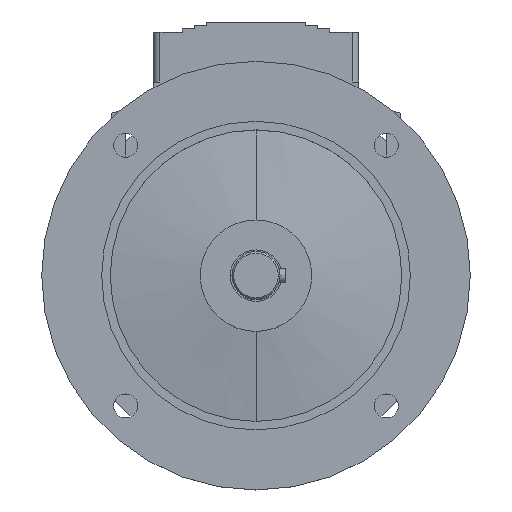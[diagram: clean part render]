
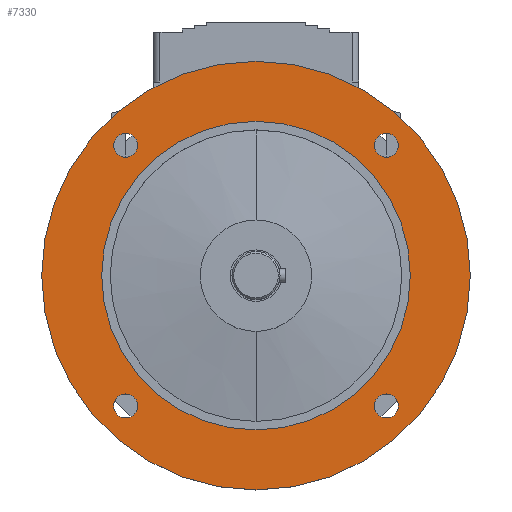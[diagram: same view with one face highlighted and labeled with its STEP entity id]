
A CAD part, top view. The second image highlights one B-rep face of the part: STEP entity #7330.
In plain terms, the highlighted planar face has unit normal (0, 0, 1).
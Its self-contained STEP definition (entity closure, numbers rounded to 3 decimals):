
#2224=CARTESIAN_POINT('',(-76.014,76.014,38.));
#2225=DIRECTION('',(0.,0.,-1.));
#2226=DIRECTION('',(-1.,0.,0.));
#2227=AXIS2_PLACEMENT_3D('',#2224,#2225,#2226);
#2229=CARTESIAN_POINT('',(-76.014,76.014,38.));
#2230=DIRECTION('',(0.,0.,-1.));
#2231=DIRECTION('',(1.,0.,0.));
#2232=AXIS2_PLACEMENT_3D('',#2229,#2230,#2231);
#2234=CARTESIAN_POINT('',(-76.014,-76.014,38.));
#2235=DIRECTION('',(0.,0.,-1.));
#2236=DIRECTION('',(-1.,0.,0.));
#2237=AXIS2_PLACEMENT_3D('',#2234,#2235,#2236);
#2239=CARTESIAN_POINT('',(-76.014,-76.014,38.));
#2240=DIRECTION('',(0.,0.,-1.));
#2241=DIRECTION('',(1.,0.,0.));
#2242=AXIS2_PLACEMENT_3D('',#2239,#2240,#2241);
#2244=CARTESIAN_POINT('',(76.014,-76.014,38.));
#2245=DIRECTION('',(0.,0.,-1.));
#2246=DIRECTION('',(-1.,0.,0.));
#2247=AXIS2_PLACEMENT_3D('',#2244,#2245,#2246);
#2249=CARTESIAN_POINT('',(76.014,-76.014,38.));
#2250=DIRECTION('',(0.,0.,-1.));
#2251=DIRECTION('',(1.,0.,0.));
#2252=AXIS2_PLACEMENT_3D('',#2249,#2250,#2251);
#2254=CARTESIAN_POINT('',(0.,0.,38.));
#2255=DIRECTION('',(0.,0.,1.));
#2256=DIRECTION('',(0.,1.,0.));
#2257=AXIS2_PLACEMENT_3D('',#2254,#2255,#2256);
#2259=CARTESIAN_POINT('',(0.,0.,38.));
#2260=DIRECTION('',(0.,0.,-1.));
#2261=DIRECTION('',(0.,1.,0.));
#2262=AXIS2_PLACEMENT_3D('',#2259,#2260,#2261);
#2264=CARTESIAN_POINT('',(76.014,76.014,38.));
#2265=DIRECTION('',(0.,0.,-1.));
#2266=DIRECTION('',(-1.,0.,0.));
#2267=AXIS2_PLACEMENT_3D('',#2264,#2265,#2266);
#2269=CARTESIAN_POINT('',(76.014,76.014,38.));
#2270=DIRECTION('',(0.,0.,-1.));
#2271=DIRECTION('',(1.,0.,0.));
#2272=AXIS2_PLACEMENT_3D('',#2269,#2270,#2271);
#2294=CARTESIAN_POINT('',(0.,0.,38.));
#2295=DIRECTION('',(0.,0.,-1.));
#2296=DIRECTION('',(0.,1.,0.));
#2297=AXIS2_PLACEMENT_3D('',#2294,#2295,#2296);
#2307=CARTESIAN_POINT('',(0.,0.,38.));
#2308=DIRECTION('',(0.,0.,1.));
#2309=DIRECTION('',(0.,1.,0.));
#2310=AXIS2_PLACEMENT_3D('',#2307,#2308,#2309);
#3365=CARTESIAN_POINT('',(0.,125.,38.));
#3367=VERTEX_POINT('',#3365);
#3368=CARTESIAN_POINT('',(0.,90.,38.));
#3370=VERTEX_POINT('',#3368);
#3373=CARTESIAN_POINT('',(0.,-125.,38.));
#3375=VERTEX_POINT('',#3373);
#3376=CARTESIAN_POINT('',(0.,-90.,38.));
#3378=VERTEX_POINT('',#3376);
#3384=CARTESIAN_POINT('',(69.014,76.014,38.));
#3385=CARTESIAN_POINT('',(83.014,76.014,38.));
#3386=VERTEX_POINT('',#3384);
#3387=VERTEX_POINT('',#3385);
#3392=CARTESIAN_POINT('',(69.014,-76.014,38.));
#3393=CARTESIAN_POINT('',(83.014,-76.014,38.));
#3394=VERTEX_POINT('',#3392);
#3395=VERTEX_POINT('',#3393);
#3400=CARTESIAN_POINT('',(-83.014,-76.014,38.));
#3401=CARTESIAN_POINT('',(-69.014,-76.014,38.));
#3402=VERTEX_POINT('',#3400);
#3403=VERTEX_POINT('',#3401);
#3408=CARTESIAN_POINT('',(-83.014,76.014,38.));
#3409=CARTESIAN_POINT('',(-69.014,76.014,38.));
#3410=VERTEX_POINT('',#3408);
#3411=VERTEX_POINT('',#3409);
#7290=CARTESIAN_POINT('',(0.,0.,38.));
#7291=DIRECTION('',(0.,0.,-1.));
#7292=DIRECTION('',(0.,-1.,0.));
#7293=AXIS2_PLACEMENT_3D('',#7290,#7291,#7292);
#7294=PLANE('',#7293);
#7296=ORIENTED_EDGE('',*,*,#7295,.F.);
#7298=ORIENTED_EDGE('',*,*,#7297,.T.);
#7299=EDGE_LOOP('',(#7296,#7298));
#7300=FACE_OUTER_BOUND('',#7299,.F.);
#7301=ORIENTED_EDGE('',*,*,#7280,.F.);
#7303=ORIENTED_EDGE('',*,*,#7302,.F.);
#7304=EDGE_LOOP('',(#7301,#7303));
#7305=FACE_BOUND('',#7304,.F.);
#7307=ORIENTED_EDGE('',*,*,#7306,.F.);
#7309=ORIENTED_EDGE('',*,*,#7308,.F.);
#7310=EDGE_LOOP('',(#7307,#7309));
#7311=FACE_BOUND('',#7310,.F.);
#7313=ORIENTED_EDGE('',*,*,#7312,.F.);
#7315=ORIENTED_EDGE('',*,*,#7314,.F.);
#7316=EDGE_LOOP('',(#7313,#7315));
#7317=FACE_BOUND('',#7316,.F.);
#7319=ORIENTED_EDGE('',*,*,#7318,.F.);
#7321=ORIENTED_EDGE('',*,*,#7320,.T.);
#7322=EDGE_LOOP('',(#7319,#7321));
#7323=FACE_BOUND('',#7322,.F.);
#7325=ORIENTED_EDGE('',*,*,#7324,.F.);
#7327=ORIENTED_EDGE('',*,*,#7326,.F.);
#7328=EDGE_LOOP('',(#7325,#7327));
#7329=FACE_BOUND('',#7328,.F.);
#7330=ADVANCED_FACE('',(#7300,#7305,#7311,#7317,#7323,#7329),#7294,.F.);
#2228=CIRCLE('',#2227,7.);
#2233=CIRCLE('',#2232,7.);
#2238=CIRCLE('',#2237,7.);
#2243=CIRCLE('',#2242,7.);
#2248=CIRCLE('',#2247,7.);
#2253=CIRCLE('',#2252,7.);
#2258=CIRCLE('',#2257,125.);
#2263=CIRCLE('',#2262,125.);
#2268=CIRCLE('',#2267,7.);
#2273=CIRCLE('',#2272,7.);
#2298=CIRCLE('',#2297,90.);
#2311=CIRCLE('',#2310,90.);
#7280=EDGE_CURVE('',#3410,#3411,#2228,.T.);
#7295=EDGE_CURVE('',#3367,#3375,#2258,.T.);
#7297=EDGE_CURVE('',#3367,#3375,#2263,.T.);
#7302=EDGE_CURVE('',#3411,#3410,#2233,.T.);
#7306=EDGE_CURVE('',#3402,#3403,#2238,.T.);
#7308=EDGE_CURVE('',#3403,#3402,#2243,.T.);
#7312=EDGE_CURVE('',#3394,#3395,#2248,.T.);
#7314=EDGE_CURVE('',#3395,#3394,#2253,.T.);
#7318=EDGE_CURVE('',#3370,#3378,#2298,.T.);
#7320=EDGE_CURVE('',#3370,#3378,#2311,.T.);
#7324=EDGE_CURVE('',#3386,#3387,#2268,.T.);
#7326=EDGE_CURVE('',#3387,#3386,#2273,.T.);
